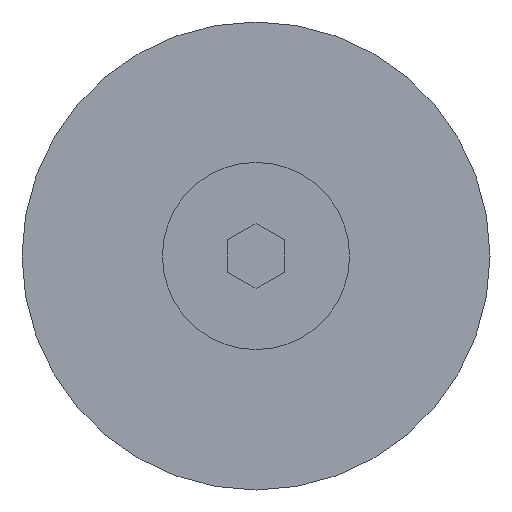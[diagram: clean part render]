
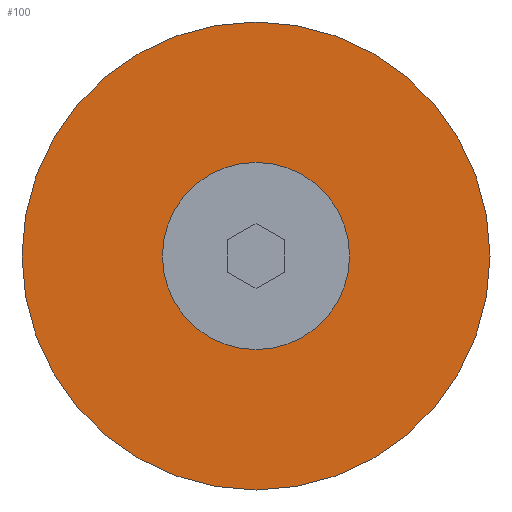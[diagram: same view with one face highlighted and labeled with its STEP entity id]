
A CAD part, front view. The second image highlights one B-rep face of the part: STEP entity #100.
In plain terms, the highlighted planar face has unit normal (0, -1, 0).
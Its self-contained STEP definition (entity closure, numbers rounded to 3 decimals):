
#100=ADVANCED_FACE('',(#179,#180),#181,.F.);
#179=FACE_OUTER_BOUND('',#287,.T.);
#180=FACE_BOUND('',#288,.T.);
#181=PLANE('',#289);
#287=EDGE_LOOP('',(#529,#530));
#288=EDGE_LOOP('',(#531,#532));
#289=AXIS2_PLACEMENT_3D('',#533,#534,#535);
#529=ORIENTED_EDGE('',*,*,#731,.T.);
#530=ORIENTED_EDGE('',*,*,#757,.T.);
#531=ORIENTED_EDGE('',*,*,#759,.F.);
#532=ORIENTED_EDGE('',*,*,#725,.F.);
#533=CARTESIAN_POINT('',(-9.75,-7.0,0.0));
#534=DIRECTION('',(0.0,1.0,0.0));
#535=DIRECTION('',(1.0,0.0,-0.0));
#725=EDGE_CURVE('',#842,#845,#846,.T.);
#731=EDGE_CURVE('',#851,#855,#857,.T.);
#757=EDGE_CURVE('',#855,#851,#897,.T.);
#759=EDGE_CURVE('',#845,#842,#899,.T.);
#842=VERTEX_POINT('',#1032);
#845=VERTEX_POINT('',#1036);
#846=CIRCLE('',#1037,5.0);
#851=VERTEX_POINT('',#1043);
#855=VERTEX_POINT('',#1048);
#857=CIRCLE('',#1051,12.5);
#897=CIRCLE('',#1101,12.5);
#899=CIRCLE('',#1103,5.0);
#1032=CARTESIAN_POINT('',(2.75,-7.0,-5.0));
#1036=CARTESIAN_POINT('',(2.75,-7.0,5.0));
#1037=AXIS2_PLACEMENT_3D('',#1307,#1308,#1309);
#1043=CARTESIAN_POINT('',(2.75,-7.0,-12.5));
#1048=CARTESIAN_POINT('',(2.75,-7.0,12.5));
#1051=AXIS2_PLACEMENT_3D('',#1319,#1320,#1321);
#1101=AXIS2_PLACEMENT_3D('',#1377,#1378,#1379);
#1103=AXIS2_PLACEMENT_3D('',#1383,#1384,#1385);
#1307=CARTESIAN_POINT('',(2.75,-7.0,0.0));
#1308=DIRECTION('',(0.0,-1.0,0.0));
#1309=DIRECTION('',(0.0,0.0,-1.0));
#1319=CARTESIAN_POINT('',(2.75,-7.0,0.0));
#1320=DIRECTION('',(0.0,-1.0,0.0));
#1321=DIRECTION('',(0.0,0.0,-1.0));
#1377=CARTESIAN_POINT('',(2.75,-7.0,0.0));
#1378=DIRECTION('',(0.0,-1.0,0.0));
#1379=DIRECTION('',(0.0,0.0,-1.0));
#1383=CARTESIAN_POINT('',(2.75,-7.0,0.0));
#1384=DIRECTION('',(0.0,-1.0,0.0));
#1385=DIRECTION('',(0.0,0.0,-1.0));
